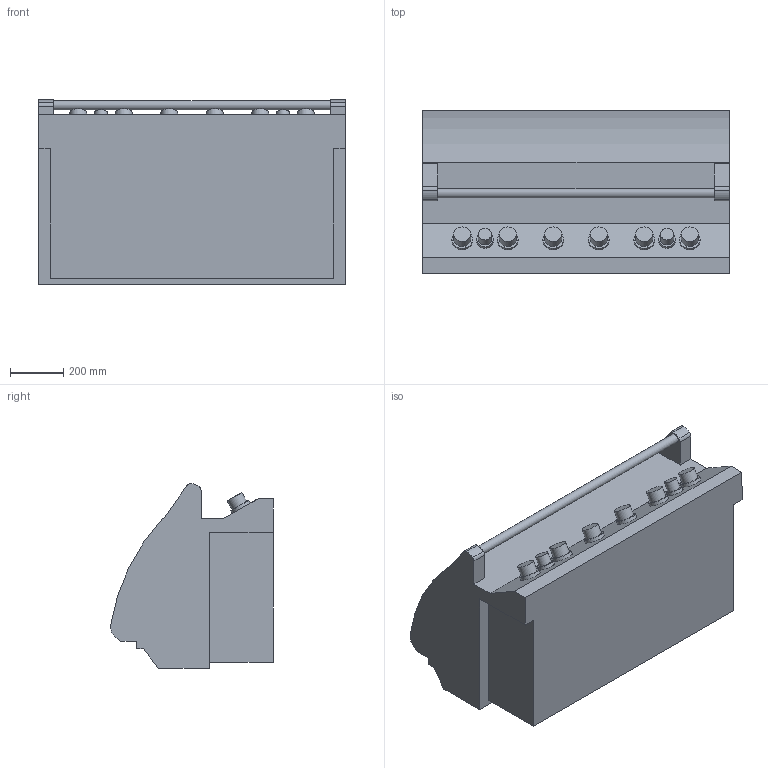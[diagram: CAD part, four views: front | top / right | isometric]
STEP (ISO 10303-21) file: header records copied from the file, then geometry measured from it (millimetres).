
FILE_DESCRIPTION (( 'STEP AP203' ), '1' );
FILE_NAME ('BIG44RB.STEP', '2020-04-24T13:45:06', ( '8DNKR52' ), ( 'Microsoft' ), 'SwSTEP 2.0', 'SolidWorks 2019', '' );
FILE_SCHEMA (( 'CONFIG_CONTROL_DESIGN' ));
Length unit declared in the file: inch
Products named in the file (1): BIG44RB
Bounding box: 1155.7 x 613.08 x 695.12 mm (x, y, z)
Volume: 346310456.8 mm3; surface area: 3466853.9 mm2
Topology: 1 solids, 1 shells, 65 faces, 149 edges, 102 vertices
Faces by surface type: plane 40, cylinder 25
Full cylindrical faces by diameter (mm): 34.925 x1, 49.213 x2, 63.5 x8, 77.787 x6
Entity records: 1783 total; most frequent: DIRECTION 306, CARTESIAN_POINT 284, ORIENTED_EDGE 248, EDGE_CURVE 124, AXIS2_PLACEMENT_3D 116, EDGE_LOOP 100, VERTEX_POINT 94, FACE_OUTER_BOUND 82
